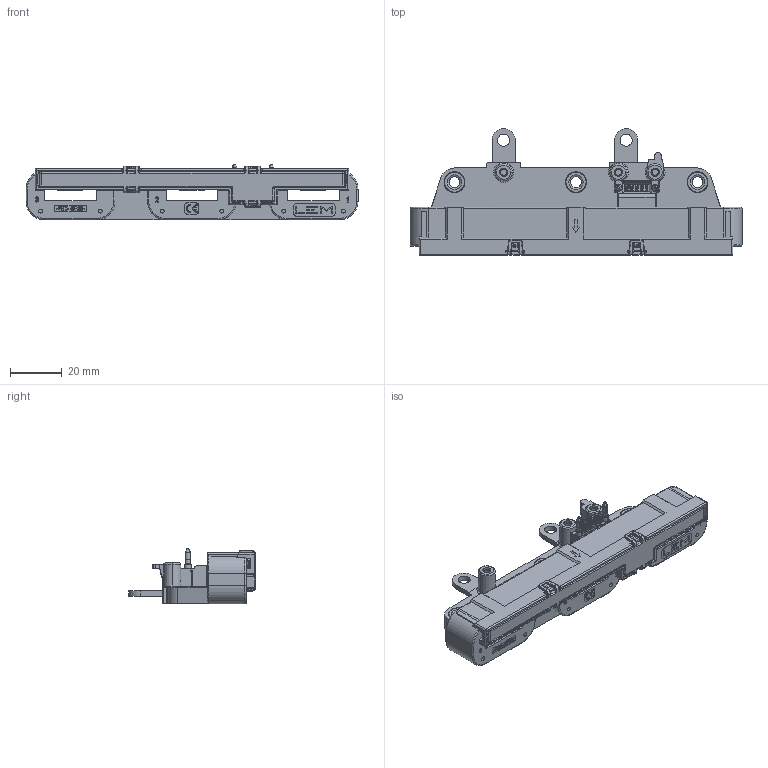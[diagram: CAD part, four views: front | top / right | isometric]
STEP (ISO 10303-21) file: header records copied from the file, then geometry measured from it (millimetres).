
FILE_DESCRIPTION(('Creo Elements/Direct Modeling STEP Export'),'2;1');
FILE_NAME('BlackBox_HAH3DR S07-SP3_20203030.stp','2020-03-03T 8:46:38',(''),(''),'Creo Elements/Direct Modeling STEP processor for AP214 (Solid Model)','Creo Elements/Direct Modeling 20.1 10-Mar-2018 (C) Parametric Technology GmbH','');
FILE_SCHEMA(('AUTOMOTIVE_DESIGN { 1 0 10303 214 1 1 1 1 }'));
Length unit declared in the file: millimetre
Products named in the file (6): BlackBox_case; Spacer-S07-SP3-M5x7.4.3; collars; Spacer; BRACKET; BlackBox_HAH3DR_S07-SP3
Assembly tree (8 placements, depth 4):
  BlackBox_HAH3DR_S07-SP3
    BRACKET  x2
    Spacer
      collars
        Spacer-S07-SP3-M5x7.4.3  x3
    BlackBox_case
Bounding box: 128.4 x 49.11 x 21.55 mm (x, y, z)
Volume: 1399.3 mm3; surface area: 27163.2 mm2
Topology: 5 solids, 7 shells, 7702 faces, 20725 edges, 13141 vertices
Faces by surface type: plane 4512, cylinder 2006, cone 646, bspline 337, torus 170, sphere 31
Entity records: 240258 total; most frequent: CARTESIAN_POINT 96387, ORIENTED_EDGE 31832, DIRECTION 26875, EDGE_CURVE 15914, VECTOR 11399, LINE 11399, VERTEX_POINT 10217, AXIS2_PLACEMENT_3D 7738
